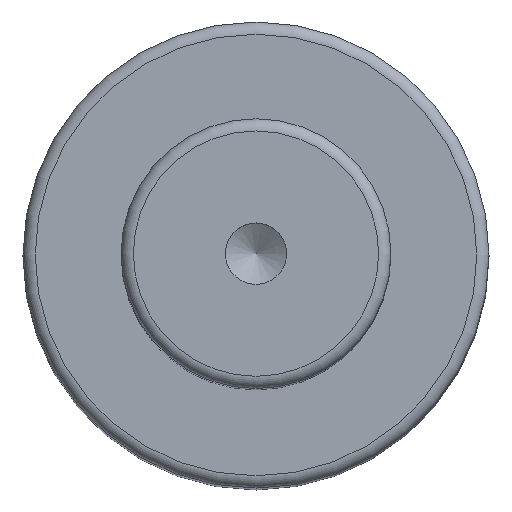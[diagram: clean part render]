
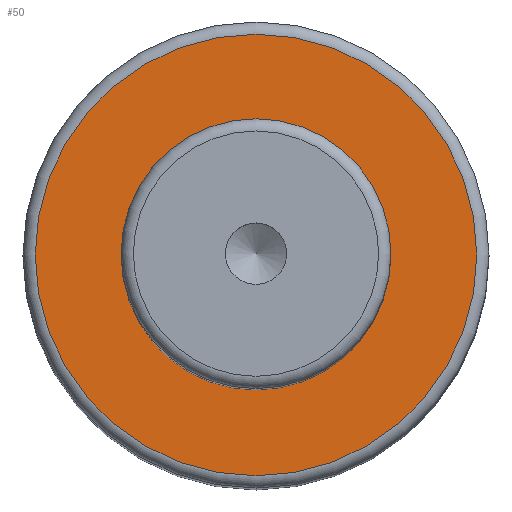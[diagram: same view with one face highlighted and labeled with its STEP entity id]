
A CAD part, top view. The second image highlights one B-rep face of the part: STEP entity #50.
In plain terms, the highlighted planar face has unit normal (0, 0, 1).
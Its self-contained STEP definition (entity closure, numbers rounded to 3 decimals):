
#40=PLANE('',#179);
#50=ADVANCED_FACE('',(#72,#73),#40,.F.);
#72=FACE_BOUND('',#96,.T.);
#73=FACE_BOUND('',#97,.T.);
#96=EDGE_LOOP('',(#118));
#97=EDGE_LOOP('',(#119));
#118=ORIENTED_EDGE('',*,*,#149,.F.);
#119=ORIENTED_EDGE('',*,*,#148,.T.);
#135=VERTEX_POINT('',#256);
#136=VERTEX_POINT('',#259);
#148=EDGE_CURVE('',#135,#135,#159,.T.);
#149=EDGE_CURVE('',#136,#136,#160,.T.);
#159=CIRCLE('',#176,11.);
#160=CIRCLE('',#178,18.);
#176=AXIS2_PLACEMENT_3D('',#255,#213,#214);
#178=AXIS2_PLACEMENT_3D('',#258,#217,#218);
#179=AXIS2_PLACEMENT_3D('',#260,#219,#220);
#213=DIRECTION('',(0.,0.,-1.));
#214=DIRECTION('',(-1.,0.,0.));
#217=DIRECTION('',(0.,0.,-1.));
#218=DIRECTION('',(-1.,0.,0.));
#219=DIRECTION('',(0.,0.,-1.));
#220=DIRECTION('',(-1.,0.,0.));
#255=CARTESIAN_POINT('',(0.,0.,92.));
#256=CARTESIAN_POINT('',(-11.,0.,92.));
#258=CARTESIAN_POINT('',(0.,0.,92.));
#259=CARTESIAN_POINT('',(-18.,0.,92.));
#260=CARTESIAN_POINT('',(11.,0.,92.));
